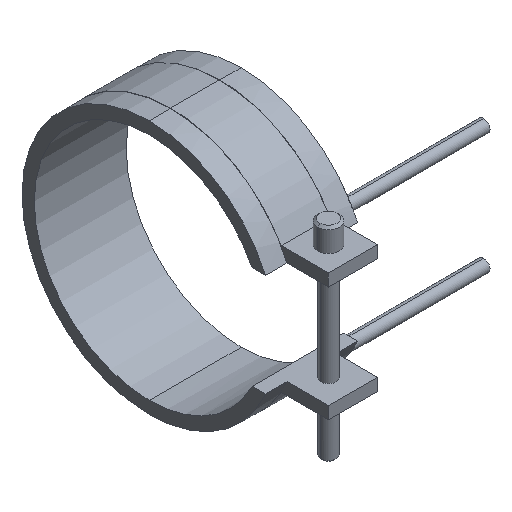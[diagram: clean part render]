
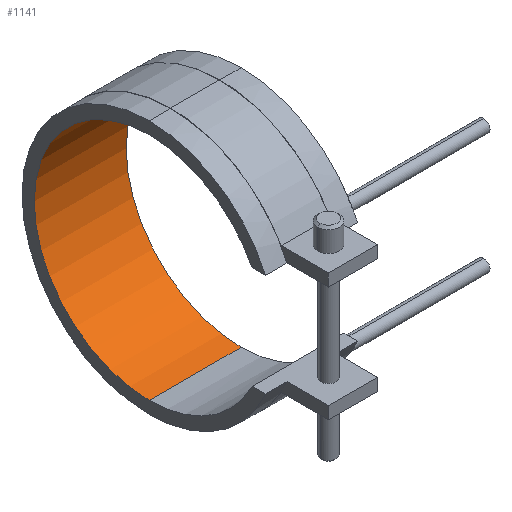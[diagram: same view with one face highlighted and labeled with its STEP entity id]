
A CAD part, isometric view. The second image highlights one B-rep face of the part: STEP entity #1141.
In plain terms, the highlighted cylindrical face has radius 37.5 mm (diameter 75 mm), a partial arc.
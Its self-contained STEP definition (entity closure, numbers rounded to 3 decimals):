
#822=CARTESIAN_POINT('Vertex',(-15.,0.,-37.5)) ;
#829=CARTESIAN_POINT('Vertex',(15.,0.,-37.5)) ;
#832=CARTESIAN_POINT('Line Origine',(15.,0.,-37.5)) ;
#850=CARTESIAN_POINT('Axis2P3D Location',(-15.,0.,0.)) ;
#854=CARTESIAN_POINT('Vertex',(-15.,0.,37.5)) ;
#911=CARTESIAN_POINT('Vertex',(15.,0.,37.5)) ;
#921=CARTESIAN_POINT('Line Origine',(15.,0.,37.5)) ;
#1012=CARTESIAN_POINT('Axis2P3D Location',(15.,0.,0.)) ;
#1130=CARTESIAN_POINT('Axis2P3D Location',(15.,0.,0.)) ;
#833=DIRECTION('Vector Direction',(1.,0.,0.)) ;
#851=DIRECTION('Axis2P3D Direction',(1.,0.,0.)) ;
#922=DIRECTION('Vector Direction',(1.,0.,0.)) ;
#1013=DIRECTION('Axis2P3D Direction',(1.,0.,0.)) ;
#1131=DIRECTION('Axis2P3D Direction',(1.,0.,-0.)) ;
#1132=DIRECTION('Axis2P3D XDirection',(0.,0.,-1.)) ;
#852=AXIS2_PLACEMENT_3D('Circle Axis2P3D',#850,#851,$) ;
#1014=AXIS2_PLACEMENT_3D('Circle Axis2P3D',#1012,#1013,$) ;
#1133=AXIS2_PLACEMENT_3D('Cylinder Axis2P3D',#1130,#1131,#1132) ;
#1136=ORIENTED_EDGE('',*,*,#1016,.T.) ;
#1137=ORIENTED_EDGE('',*,*,#925,.T.) ;
#1138=ORIENTED_EDGE('',*,*,#856,.F.) ;
#1139=ORIENTED_EDGE('',*,*,#836,.T.) ;
#834=VECTOR('Line Direction',#833,1.) ;
#923=VECTOR('Line Direction',#922,1.) ;
#1141=ADVANCED_FACE('14075030',(#1140),#1134,.F.) ;
#853=CIRCLE('generated circle',#852,37.5) ;
#1015=CIRCLE('generated circle',#1014,37.5) ;
#1134=CYLINDRICAL_SURFACE('generated cylinder',#1133,37.5) ;
#836=EDGE_CURVE('',#823,#830,#835,.T.) ;
#856=EDGE_CURVE('',#823,#855,#853,.T.) ;
#925=EDGE_CURVE('',#912,#855,#924,.F.) ;
#1016=EDGE_CURVE('',#830,#912,#1015,.T.) ;
#1135=EDGE_LOOP('',(#1136,#1137,#1138,#1139)) ;
#1140=FACE_OUTER_BOUND('',#1135,.T.) ;
#835=LINE('Line',#832,#834) ;
#924=LINE('Line',#921,#923) ;
#823=VERTEX_POINT('',#822) ;
#830=VERTEX_POINT('',#829) ;
#855=VERTEX_POINT('',#854) ;
#912=VERTEX_POINT('',#911) ;
